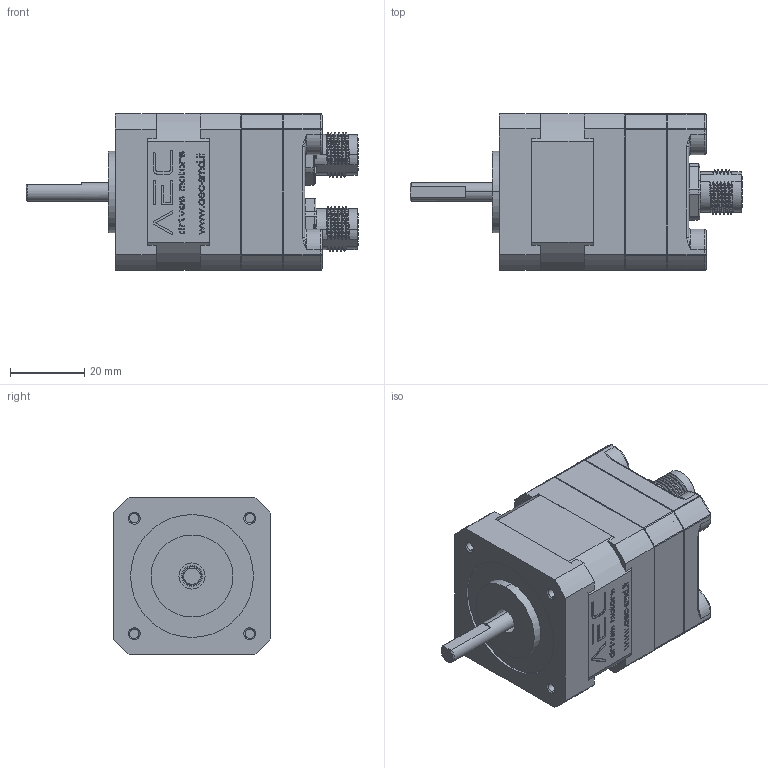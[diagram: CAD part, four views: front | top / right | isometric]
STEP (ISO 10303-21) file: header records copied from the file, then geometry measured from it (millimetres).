
FILE_DESCRIPTION (( 'STEP AP214' ), '1' );
FILE_NAME ('M42SH33-TO0512L05C.STEP', '2025-05-17T07:10:22', ( '' ), ( '' ), 'SwSTEP 2.0', 'SolidWorks 2019', '' );
FILE_SCHEMA (( 'AUTOMOTIVE_DESIGN' ));
Length unit declared in the file: millimetre
Products named in the file (1): M42SH33-TO0512L05C
Bounding box: 89.14 x 42 x 42 mm (x, y, z)
Volume: 45050.2 mm3; surface area: 45825.1 mm2
Topology: 31 solids, 31 shells, 3495 faces, 8743 edges, 5411 vertices
Faces by surface type: plane 1188, cylinder 942, torus 588, bspline 550, cone 188, sphere 39
Entity records: 203476 total; most frequent: CARTESIAN_POINT 84207, ORIENTED_EDGE 17320, DIRECTION 16352, EDGE_CURVE 8660, AXIS2_PLACEMENT_3D 6288, VERTEX_POINT 5411, VECTOR 3776, LINE 3776
